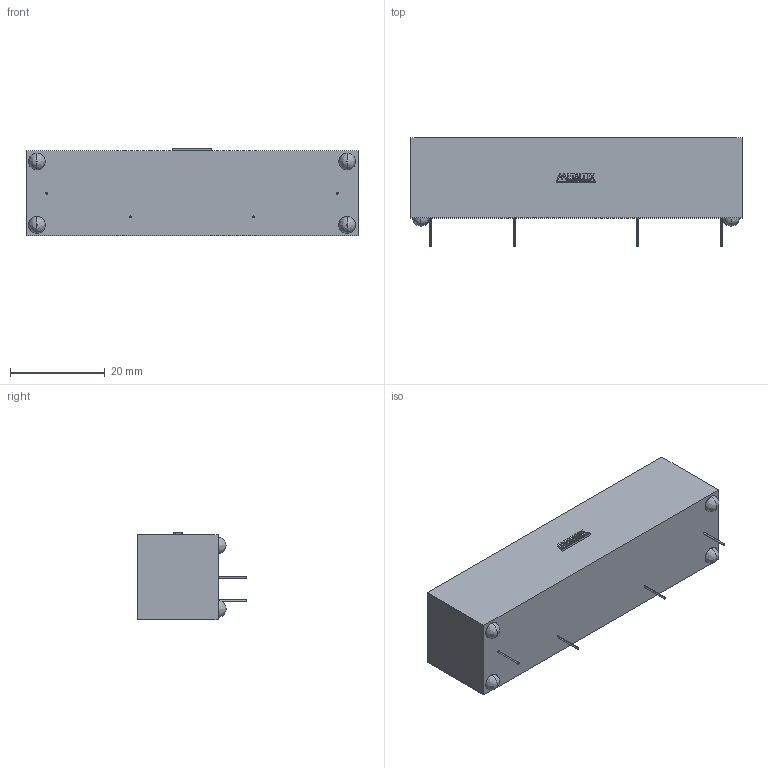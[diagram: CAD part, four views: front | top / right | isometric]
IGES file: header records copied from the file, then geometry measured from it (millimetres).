
Start section: SolidWorks IGES file using analytic representation for surfaces
Global section: file name: D:\X - Arquivos\PROEX\Empresas\P11 - METALTEX\01 - Produtos\IGES\7ª remessa\1ª etapa\RA1NAC3.IGS; native system: SolidWorks 2012; preprocessor: SolidWorks 2012; author: Usuario; date: 190705.144350; units: millimetre
Bounding box: 70.2 x 23 x 18.5 mm (x, y, z)
Surface area: 5812.1 mm2 (no closed solid volume)
Topology: 0 solids, 0 shells, 131 faces, 892 edges, 892 vertices
Faces by surface type: bspline 123, revolution 8
